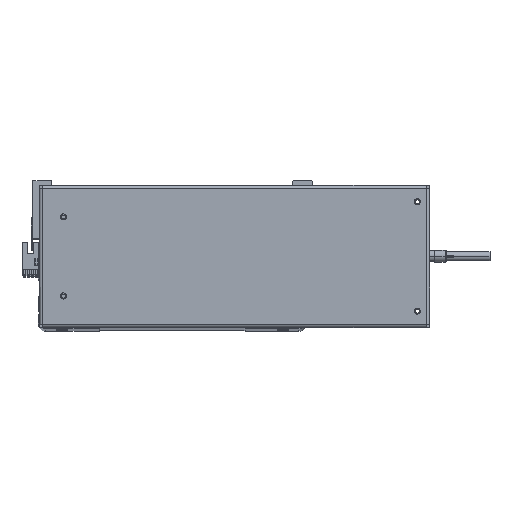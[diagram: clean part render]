
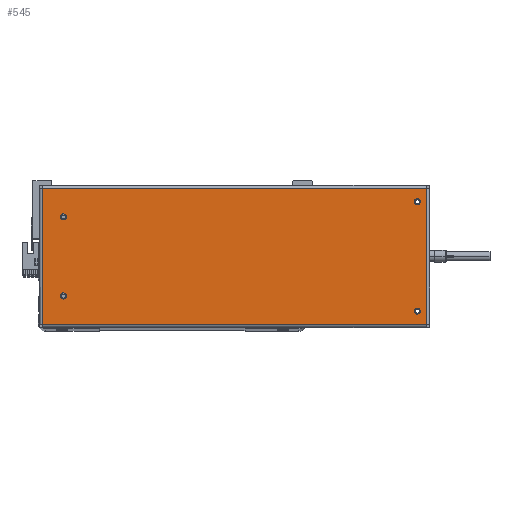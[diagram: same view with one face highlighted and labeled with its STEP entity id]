
A CAD part, top view. The second image highlights one B-rep face of the part: STEP entity #545.
In plain terms, the highlighted planar face has unit normal (0, 0, 1).
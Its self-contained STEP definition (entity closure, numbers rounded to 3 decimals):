
#223 = CARTESIAN_POINT ( 'NONE',  ( -143., 32.5, 0. ) ) ;
#545 = ADVANCED_FACE ( 'NONE', ( #11229, #27398, #37340, #28395, #34823 ), #30578, .F. ) ;
#712 = EDGE_CURVE ( 'NONE', #16061, #22167, #15152, .T. ) ;
#766 = EDGE_LOOP ( 'NONE', ( #8847, #38599 ) ) ;
#843 = EDGE_CURVE ( 'NONE', #4883, #33575, #31397, .T. ) ;
#1106 = CARTESIAN_POINT ( 'NONE',  ( 157.6, -55.6, 0. ) ) ;
#2093 = EDGE_LOOP ( 'NONE', ( #25123, #39210, #33771, #38526 ) ) ;
#2758 = VECTOR ( 'NONE', #19800, 1000. ) ;
#2777 = CARTESIAN_POINT ( 'NONE',  ( 150.5, 45., 0. ) ) ;
#4551 = AXIS2_PLACEMENT_3D ( 'NONE', #2777, #5928, #9069 ) ;
#4622 = CARTESIAN_POINT ( 'NONE',  ( 148., 45., 0. ) ) ;
#4883 = VERTEX_POINT ( 'NONE', #30570 ) ;
#5166 = CARTESIAN_POINT ( 'NONE',  ( -157.6, 55.6, 0. ) ) ;
#5296 = CIRCLE ( 'NONE', #4551, 2.5 ) ;
#5653 = DIRECTION ( 'NONE',  ( 1., 0., 0. ) ) ;
#5769 = DIRECTION ( 'NONE',  ( 0., -1., 0. ) ) ;
#5928 = DIRECTION ( 'NONE',  ( 0., 0., 1. ) ) ;
#6227 = AXIS2_PLACEMENT_3D ( 'NONE', #20101, #13843, #23261 ) ;
#6792 = DIRECTION ( 'NONE',  ( -1., 0., 0. ) ) ;
#7057 = CIRCLE ( 'NONE', #18817, 2.5 ) ;
#7757 = DIRECTION ( 'NONE',  ( 0., 0., 1. ) ) ;
#8339 = EDGE_LOOP ( 'NONE', ( #25182, #16301 ) ) ;
#8847 = ORIENTED_EDGE ( 'NONE', *, *, #23865, .F. ) ;
#9069 = DIRECTION ( 'NONE',  ( 1., 0., 0. ) ) ;
#9270 = DIRECTION ( 'NONE',  ( 0., 0., 1. ) ) ;
#9382 = EDGE_CURVE ( 'NONE', #33603, #13849, #15675, .T. ) ;
#10602 = LINE ( 'NONE', #40759, #2758 ) ;
#10772 = DIRECTION ( 'NONE',  ( 1., 0., 0. ) ) ;
#11229 = FACE_BOUND ( 'NONE', #766, .T. ) ;
#11259 = AXIS2_PLACEMENT_3D ( 'NONE', #11590, #19790, #35907 ) ;
#11489 = CARTESIAN_POINT ( 'NONE',  ( -143., -32.5, 0. ) ) ;
#11590 = CARTESIAN_POINT ( 'NONE',  ( 150.5, -45., 0. ) ) ;
#11633 = CARTESIAN_POINT ( 'NONE',  ( 157.7, 58.5, 0. ) ) ;
#11663 = VECTOR ( 'NONE', #5769, 1000. ) ;
#13453 = CARTESIAN_POINT ( 'NONE',  ( -140.5, 32.5, 0. ) ) ;
#13843 = DIRECTION ( 'NONE',  ( 0., 0., 1. ) ) ;
#13844 = CARTESIAN_POINT ( 'NONE',  ( -140.5, 32.5, 0. ) ) ;
#13849 = VERTEX_POINT ( 'NONE', #17911 ) ;
#14428 = LINE ( 'NONE', #1106, #29105 ) ;
#14614 = ORIENTED_EDGE ( 'NONE', *, *, #20475, .F. ) ;
#15152 = CIRCLE ( 'NONE', #38439, 2.5 ) ;
#15324 = CARTESIAN_POINT ( 'NONE',  ( 153., 45., 0. ) ) ;
#15675 = CIRCLE ( 'NONE', #6227, 2.5 ) ;
#16061 = VERTEX_POINT ( 'NONE', #18081 ) ;
#16301 = ORIENTED_EDGE ( 'NONE', *, *, #26377, .F. ) ;
#16854 = VERTEX_POINT ( 'NONE', #25069 ) ;
#17911 = CARTESIAN_POINT ( 'NONE',  ( -138., -32.5, 0. ) ) ;
#18081 = CARTESIAN_POINT ( 'NONE',  ( 153., -45., 0. ) ) ;
#18396 = DIRECTION ( 'NONE',  ( 1., 0., 0. ) ) ;
#18717 = DIRECTION ( 'NONE',  ( 1., 0., 0. ) ) ;
#18758 = ORIENTED_EDGE ( 'NONE', *, *, #23933, .F. ) ;
#18817 = AXIS2_PLACEMENT_3D ( 'NONE', #21390, #33687, #5653 ) ;
#19242 = AXIS2_PLACEMENT_3D ( 'NONE', #37704, #31201, #18396 ) ;
#19424 = DIRECTION ( 'NONE',  ( 1., 0., 0. ) ) ;
#19573 = DIRECTION ( 'NONE',  ( 0., 0., 1. ) ) ;
#19790 = DIRECTION ( 'NONE',  ( 0., 0., 1. ) ) ;
#19800 = DIRECTION ( 'NONE',  ( 1., 0., 0. ) ) ;
#20101 = CARTESIAN_POINT ( 'NONE',  ( -140.5, -32.5, 0. ) ) ;
#20475 = EDGE_CURVE ( 'NONE', #16854, #21852, #33913, .T. ) ;
#21066 = DIRECTION ( 'NONE',  ( 0., 0., -1. ) ) ;
#21080 = ORIENTED_EDGE ( 'NONE', *, *, #23018, .F. ) ;
#21390 = CARTESIAN_POINT ( 'NONE',  ( 150.5, 45., 0. ) ) ;
#21852 = VERTEX_POINT ( 'NONE', #223 ) ;
#22003 = AXIS2_PLACEMENT_3D ( 'NONE', #13453, #19573, #19424 ) ;
#22167 = VERTEX_POINT ( 'NONE', #35513 ) ;
#22871 = ORIENTED_EDGE ( 'NONE', *, *, #32684, .F. ) ;
#22936 = EDGE_LOOP ( 'NONE', ( #22871, #18758 ) ) ;
#23018 = EDGE_CURVE ( 'NONE', #21852, #16854, #28922, .T. ) ;
#23051 = DIRECTION ( 'NONE',  ( 0., 1., 0. ) ) ;
#23261 = DIRECTION ( 'NONE',  ( 1., 0., 0. ) ) ;
#23759 = AXIS2_PLACEMENT_3D ( 'NONE', #13844, #7757, #10772 ) ;
#23865 = EDGE_CURVE ( 'NONE', #13849, #33603, #29353, .T. ) ;
#23933 = EDGE_CURVE ( 'NONE', #32202, #31111, #5296, .T. ) ;
#25069 = CARTESIAN_POINT ( 'NONE',  ( -138., 32.5, 0. ) ) ;
#25073 = CARTESIAN_POINT ( 'NONE',  ( 150.5, -45., 0. ) ) ;
#25080 = EDGE_CURVE ( 'NONE', #30272, #29626, #10602, .T. ) ;
#25123 = ORIENTED_EDGE ( 'NONE', *, *, #39564, .T. ) ;
#25182 = ORIENTED_EDGE ( 'NONE', *, *, #712, .F. ) ;
#26377 = EDGE_CURVE ( 'NONE', #22167, #16061, #33623, .T. ) ;
#27379 = DIRECTION ( 'NONE',  ( -1., 0., 0. ) ) ;
#27398 = FACE_BOUND ( 'NONE', #38846, .T. ) ;
#27873 = LINE ( 'NONE', #37132, #11663 ) ;
#28395 = FACE_BOUND ( 'NONE', #22936, .T. ) ;
#28922 = CIRCLE ( 'NONE', #22003, 2.5 ) ;
#29105 = VECTOR ( 'NONE', #23051, 1000. ) ;
#29353 = CIRCLE ( 'NONE', #19242, 2.5 ) ;
#29626 = VERTEX_POINT ( 'NONE', #40246 ) ;
#30272 = VERTEX_POINT ( 'NONE', #31622 ) ;
#30494 = AXIS2_PLACEMENT_3D ( 'NONE', #11633, #21066, #27379 ) ;
#30570 = CARTESIAN_POINT ( 'NONE',  ( 157.6, 55.6, 0. ) ) ;
#30578 = PLANE ( 'NONE',  #30494 ) ;
#31111 = VERTEX_POINT ( 'NONE', #15324 ) ;
#31201 = DIRECTION ( 'NONE',  ( 0., 0., 1. ) ) ;
#31397 = LINE ( 'NONE', #34708, #37822 ) ;
#31622 = CARTESIAN_POINT ( 'NONE',  ( -157.6, -55.6, 0. ) ) ;
#32202 = VERTEX_POINT ( 'NONE', #4622 ) ;
#32684 = EDGE_CURVE ( 'NONE', #31111, #32202, #7057, .T. ) ;
#33042 = EDGE_CURVE ( 'NONE', #29626, #4883, #14428, .T. ) ;
#33575 = VERTEX_POINT ( 'NONE', #5166 ) ;
#33603 = VERTEX_POINT ( 'NONE', #11489 ) ;
#33623 = CIRCLE ( 'NONE', #11259, 2.5 ) ;
#33687 = DIRECTION ( 'NONE',  ( 0., 0., 1. ) ) ;
#33771 = ORIENTED_EDGE ( 'NONE', *, *, #33042, .T. ) ;
#33913 = CIRCLE ( 'NONE', #23759, 2.5 ) ;
#34708 = CARTESIAN_POINT ( 'NONE',  ( 157.7, 55.6, 0. ) ) ;
#34823 = FACE_OUTER_BOUND ( 'NONE', #2093, .T. ) ;
#35513 = CARTESIAN_POINT ( 'NONE',  ( 148., -45., 0. ) ) ;
#35907 = DIRECTION ( 'NONE',  ( 1., 0., 0. ) ) ;
#37132 = CARTESIAN_POINT ( 'NONE',  ( -157.6, 55.6, 0. ) ) ;
#37340 = FACE_BOUND ( 'NONE', #8339, .T. ) ;
#37704 = CARTESIAN_POINT ( 'NONE',  ( -140.5, -32.5, 0. ) ) ;
#37822 = VECTOR ( 'NONE', #6792, 1000. ) ;
#38439 = AXIS2_PLACEMENT_3D ( 'NONE', #25073, #9270, #18717 ) ;
#38526 = ORIENTED_EDGE ( 'NONE', *, *, #843, .T. ) ;
#38599 = ORIENTED_EDGE ( 'NONE', *, *, #9382, .F. ) ;
#38846 = EDGE_LOOP ( 'NONE', ( #14614, #21080 ) ) ;
#39210 = ORIENTED_EDGE ( 'NONE', *, *, #25080, .T. ) ;
#39564 = EDGE_CURVE ( 'NONE', #33575, #30272, #27873, .T. ) ;
#40246 = CARTESIAN_POINT ( 'NONE',  ( 157.6, -55.6, 0. ) ) ;
#40759 = CARTESIAN_POINT ( 'NONE',  ( -157.7, -55.6, 0. ) ) ;
